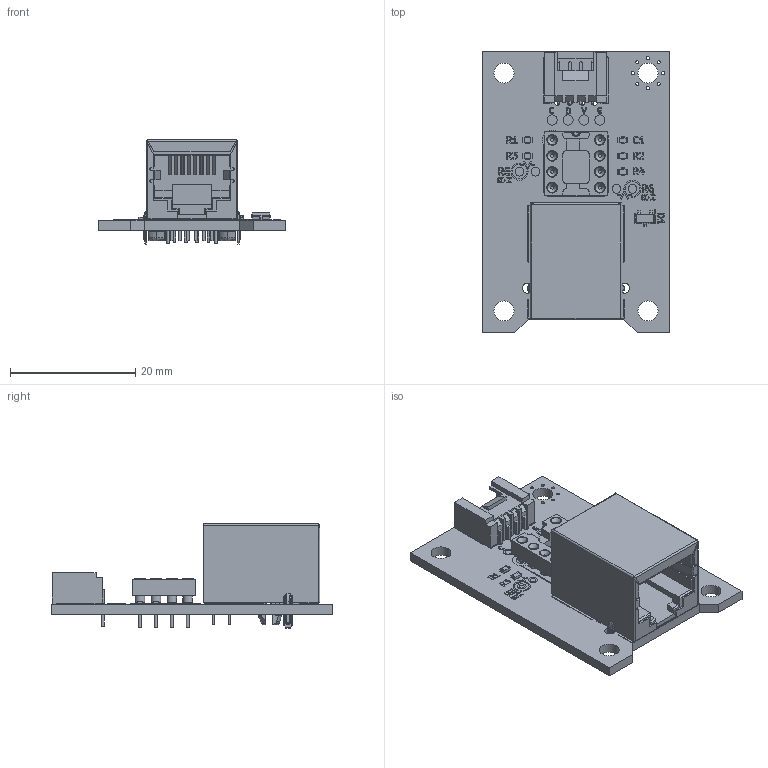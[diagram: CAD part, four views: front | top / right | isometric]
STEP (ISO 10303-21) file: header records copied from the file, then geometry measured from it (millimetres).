
FILE_DESCRIPTION(('FreeCAD Model'),'2;1');
FILE_NAME('C:/ws/KiCad/Grove_I2C_Extension/Grove_I2C_Extension_PCBA/grove-i2c-extension-v2/kicad/step/Grove_I2C_Extension_v2.step', '2021-05-29T17:22:29',('Author'),(''), 'Open CASCADE STEP processor 7.3','FreeCAD','Unknown');
FILE_SCHEMA(('AUTOMOTIVE_DESIGN { 1 0 10303 214 1 1 1 1 }'));
Length unit declared in the file: millimetre
Products named in the file (21): Step_Models_1f13; Top_1f13; J3_Defeatured_604DF476; U1_DIP_8_W762mm_Socket_60577346; R4_R_0603_1608Metric_60577747; R3_R_0603_1608Metric_605772EF; R2_R_0603_1608Metric_605772DE; R1_R_0603_1608Metric_605772CD; C1_C_0603_1608Metric_60577148; D1_SOT_23_604DF417; J1_Connecteur_Grove_(allong?_604E10C5; Board_Geoms_1f13; Local_CS_1f13; Pcb_1f13; PCB_Sketch_1f13; topSilks_edd4; botSilks_2c12; Grove_I2C_Extension
Assembly tree (32 placements, depth 4):
  Step_Models_1f13
    Top_1f13
      J3_Defeatured_604DF476
      U1_DIP_8_W762mm_Socket_60577346
      R4_R_0603_1608Metric_60577747
      R3_R_0603_1608Metric_605772EF
      R2_R_0603_1608Metric_605772DE
      R1_R_0603_1608Metric_605772CD
      C1_C_0603_1608Metric_60577148
      D1_SOT_23_604DF417
      J1_Connecteur_Grove_(allong?_604E10C5
  Board_Geoms_1f13
    Local_CS_1f13
    Pcb_1f13
    PCB_Sketch_1f13
    topSilks_edd4
    botSilks_2c12
  Grove_I2C_Extension
    Board_Geoms_1f13
      Local_CS_1f13
      Pcb_1f13
      PCB_Sketch_1f13
      topSilks_edd4
      botSilks_2c12
    Step_Models_1f13
      Top_1f13
        J3_Defeatured_604DF476
        U1_DIP_8_W762mm_Socket_60577346
        R4_R_0603_1608Metric_60577747
        R3_R_0603_1608Metric_605772EF
        R2_R_0603_1608Metric_605772DE
        R1_R_0603_1608Metric_605772CD
        C1_C_0603_1608Metric_60577148
        D1_SOT_23_604DF417
        J1_Connecteur_Grove_(allong?_604E10C5
Bounding box: 30 x 45 x 16.63 mm (x, y, z)
Volume: 8952.1 mm3; surface area: 13457 mm2
Topology: 20 solids, 240 shells, 2014 faces, 30672 edges, 29040 vertices
Faces by surface type: plane 1428, cylinder 396, bspline 126, cone 64
Full cylindrical faces by diameter (mm): 0.5 x16, 0.508 x32, 0.798 x8, 0.813 x8, 0.9 x16, 1.02 x24, 1.524 x16, 1.6 x4, 1.724 x16, 3.2 x8, 3.25 x4
Entity records: 137949 total; most frequent: CARTESIAN_POINT 31930, DIRECTION 17645, ORIENTED_EDGE 17623, EDGE_CURVE 15328, LINE 14757, VECTOR 14757, VERTEX_POINT 14504, AXIS2_PLACEMENT_3D 1444
